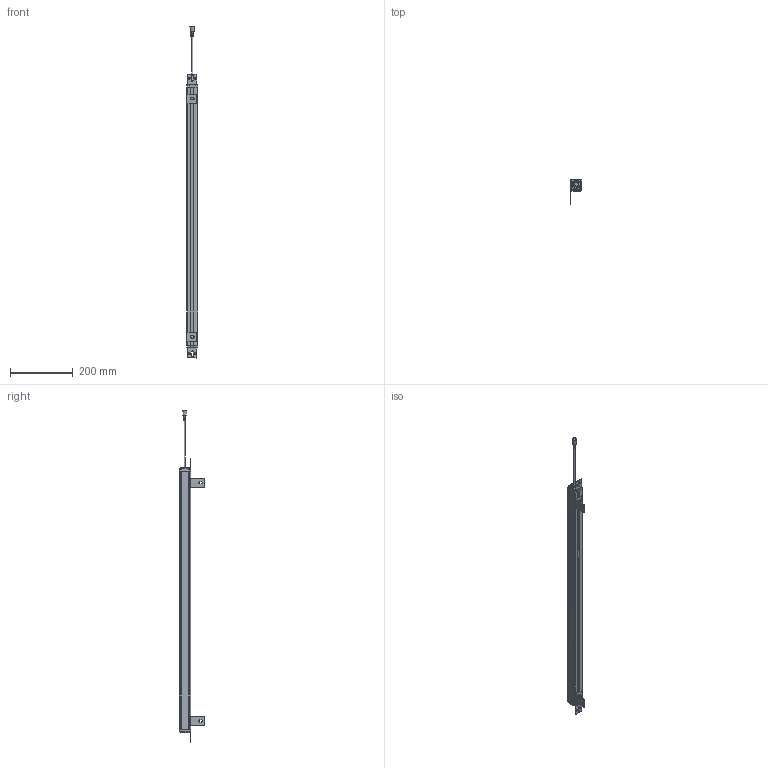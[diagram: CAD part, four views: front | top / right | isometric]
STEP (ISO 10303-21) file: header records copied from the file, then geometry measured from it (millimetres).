
FILE_DESCRIPTION(/* description */ (''),/* implementation_level */ '2;1');
FILE_NAME(/* name */ 'MTD2040.stp',/* time_stamp */ '2023-12-04T16:32:48+08:00',/* author */ (''),/* organization */ (''),/* preprocessor_version */ 'ST-DEVELOPER v16.7',/* originating_system */ 'SIEMENS PLM Software NX 12.0',/* authorisation */ '');
FILE_SCHEMA (('AP203_CONFIGURATION_CONTROLLED_3D_DESIGN_OF_MECHANICAL_PARTS_AND_ASSEMBLIES_MIM_LF { 1 0 10303 403 2 1 2}'));
Length unit declared in the file: millimetre
Products named in the file (1): 1040（35X35__stp
Bounding box: 37 x 80.6 x 1062.01 mm (x, y, z)
Volume: 418143.5 mm3; surface area: 316281.6 mm2
Topology: 10 solids, 10 shells, 563 faces, 1626 edges, 1096 vertices
Faces by surface type: plane 325, cylinder 202, cone 36
Full cylindrical faces by diameter (mm): 4.4 x1, 9 x1, 12.5 x1
Entity records: 18936 total; most frequent: CARTESIAN_POINT 3339, DIRECTION 3263, ORIENTED_EDGE 3230, EDGE_CURVE 1615, VERTEX_POINT 1092, AXIS2_PLACEMENT_3D 1088, LINE 1087, VECTOR 1087
